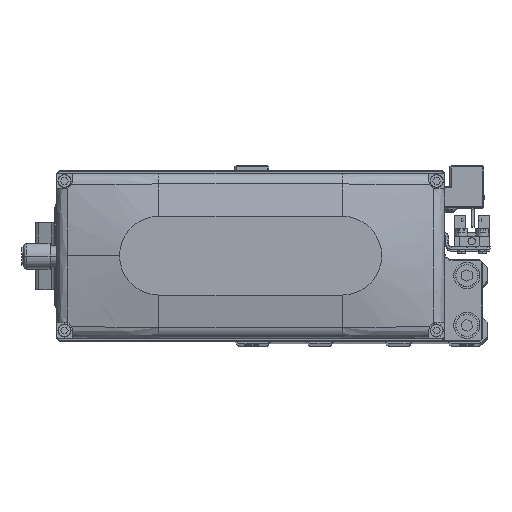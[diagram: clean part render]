
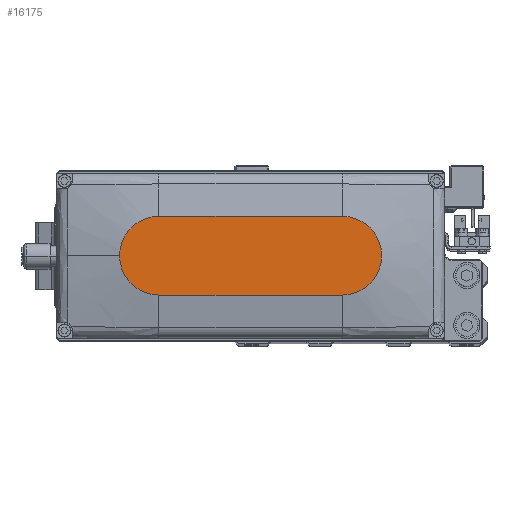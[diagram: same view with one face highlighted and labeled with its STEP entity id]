
A CAD part, top view. The second image highlights one B-rep face of the part: STEP entity #16175.
In plain terms, the highlighted planar face has unit normal (0, 0, 1).
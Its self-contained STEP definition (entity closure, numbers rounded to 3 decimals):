
#438 = DIRECTION ( 'NONE',  ( 0., 0., 1. ) ) ;
#1067 = CIRCLE ( 'NONE', #24139, 15. ) ;
#1309 = EDGE_CURVE ( 'NONE', #33114, #5722, #19551, .T. ) ;
#1371 = LINE ( 'NONE', #13960, #16545 ) ;
#3610 = DIRECTION ( 'NONE',  ( 0., 0., 1. ) ) ;
#3790 = ORIENTED_EDGE ( 'NONE', *, *, #28850, .T. ) ;
#3845 = DIRECTION ( 'NONE',  ( -1., 0., 0. ) ) ;
#3984 = EDGE_CURVE ( 'NONE', #24434, #6719, #1067, .T. ) ;
#4812 = DIRECTION ( 'NONE',  ( 0., 0., 1. ) ) ;
#5722 = VERTEX_POINT ( 'NONE', #22298 ) ;
#6564 = ORIENTED_EDGE ( 'NONE', *, *, #19193, .T. ) ;
#6719 = VERTEX_POINT ( 'NONE', #35430 ) ;
#6921 = DIRECTION ( 'NONE',  ( 0., 0., 1. ) ) ;
#8851 = AXIS2_PLACEMENT_3D ( 'NONE', #35216, #6921, #19507 ) ;
#10018 = FACE_OUTER_BOUND ( 'NONE', #25976, .T. ) ;
#12231 = VERTEX_POINT ( 'NONE', #33304 ) ;
#13038 = DIRECTION ( 'NONE',  ( 1., 0., 0. ) ) ;
#13960 = CARTESIAN_POINT ( 'NONE',  ( -35., -15., 35. ) ) ;
#16175 = ADVANCED_FACE ( 'NONE', ( #10018 ), #22602, .T. ) ;
#16213 = DIRECTION ( 'NONE',  ( 1., 0., 0. ) ) ;
#16545 = VECTOR ( 'NONE', #26562, 1000. ) ;
#17109 = ORIENTED_EDGE ( 'NONE', *, *, #1309, .T. ) ;
#17400 = DIRECTION ( 'NONE',  ( 1., 0., 0. ) ) ;
#18629 = AXIS2_PLACEMENT_3D ( 'NONE', #31922, #3610, #16213 ) ;
#19193 = EDGE_CURVE ( 'NONE', #6719, #33114, #36457, .T. ) ;
#19507 = DIRECTION ( 'NONE',  ( 1., 0., 0. ) ) ;
#19551 = LINE ( 'NONE', #32148, #34598 ) ;
#22298 = CARTESIAN_POINT ( 'NONE',  ( -35., 15., 35. ) ) ;
#22602 = PLANE ( 'NONE',  #8851 ) ;
#24139 = AXIS2_PLACEMENT_3D ( 'NONE', #28742, #438, #13038 ) ;
#24434 = VERTEX_POINT ( 'NONE', #32791 ) ;
#25203 = ORIENTED_EDGE ( 'NONE', *, *, #30035, .T. ) ;
#25976 = EDGE_LOOP ( 'NONE', ( #17109, #3790, #25203, #36429, #6564 ) ) ;
#26365 = CIRCLE ( 'NONE', #31645, 15. ) ;
#26562 = DIRECTION ( 'NONE',  ( 1., 0., 0. ) ) ;
#28742 = CARTESIAN_POINT ( 'NONE',  ( 35., 0., 35. ) ) ;
#28850 = EDGE_CURVE ( 'NONE', #5722, #12231, #26365, .T. ) ;
#30035 = EDGE_CURVE ( 'NONE', #12231, #24434, #1371, .T. ) ;
#31645 = AXIS2_PLACEMENT_3D ( 'NONE', #33124, #4812, #17400 ) ;
#31922 = CARTESIAN_POINT ( 'NONE',  ( 35., 0., 35. ) ) ;
#32148 = CARTESIAN_POINT ( 'NONE',  ( -35., 15., 35. ) ) ;
#32255 = CARTESIAN_POINT ( 'NONE',  ( 35., 15., 35. ) ) ;
#32791 = CARTESIAN_POINT ( 'NONE',  ( 35., -15., 35. ) ) ;
#33114 = VERTEX_POINT ( 'NONE', #32255 ) ;
#33124 = CARTESIAN_POINT ( 'NONE',  ( -35., 0., 35. ) ) ;
#33304 = CARTESIAN_POINT ( 'NONE',  ( -35., -15., 35. ) ) ;
#34598 = VECTOR ( 'NONE', #3845, 1000. ) ;
#35216 = CARTESIAN_POINT ( 'NONE',  ( 0., 0., 35. ) ) ;
#35430 = CARTESIAN_POINT ( 'NONE',  ( 50., 0., 35. ) ) ;
#36429 = ORIENTED_EDGE ( 'NONE', *, *, #3984, .T. ) ;
#36457 = CIRCLE ( 'NONE', #18629, 15. ) ;
